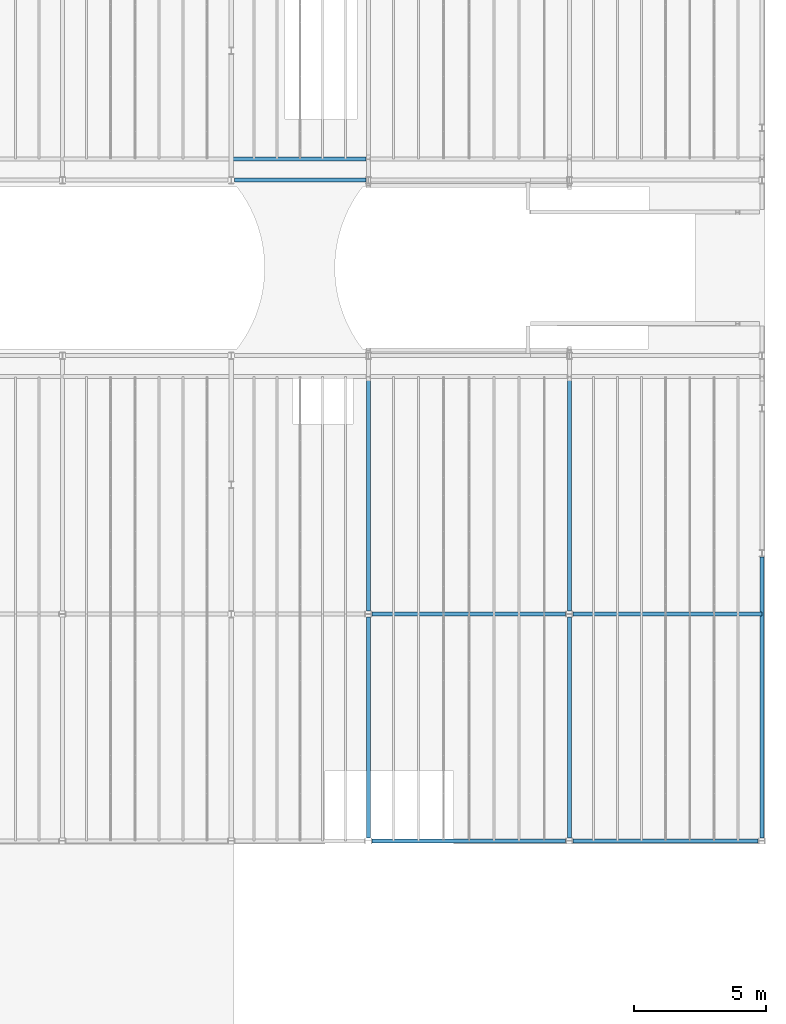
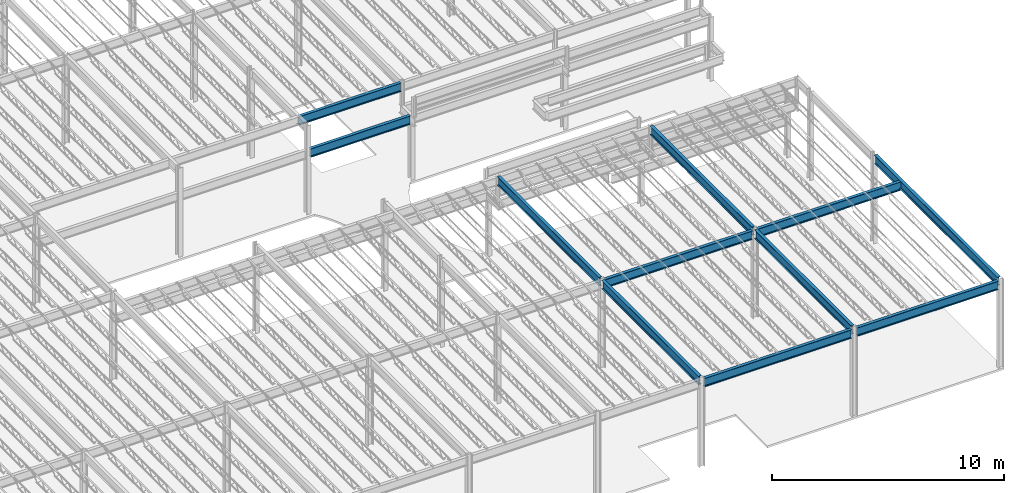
# One storey, part 12 of 119: 11 beams.
"""IFC2X3 building model written with IfcOpenShell, lengths in metres."""

from ifc_helpers import new_model, entity, si_unit, converted_unit, frame, frame_2d, origin, place, context, project, spatial, polyline, circle_curve, parameter, trimmed, segment, composite_curve, outline, extrude, material, element, save


model = new_model("IFC2X3")

# Units and contexts
model_context = context("Model", 3, precision=1e-09, world=origin())
plan_context = context("Plan", 3, precision=1e-09, world=origin())
ifc_project = project(units=[si_unit("LENGTHUNIT", "METRE"), si_unit("AREAUNIT", "SQUARE_METRE"), si_unit("VOLUMEUNIT", "CUBIC_METRE"), converted_unit("PLANEANGLEUNIT", "DEGREE", entity("IfcRatioMeasure", 0.01745329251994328), si_unit("PLANEANGLEUNIT", "RADIAN"), dimensions=[0, 0, 0, 0, 0, 0, 0]), si_unit("TIMEUNIT", "SECOND")], contexts=[model_context, plan_context])

# Site, building, storey
site_placement = place(None, origin())
site = spatial("IfcSite", under=ifc_project, at=site_placement, Name="Default", CompositionType="ELEMENT")
building_placement = place(site_placement, origin())
building = spatial("IfcBuilding", under=site, at=building_placement, CompositionType="ELEMENT")
storey_placement = place(building_placement, frame((0.0, 0.0, 4.570000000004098)))
storey = spatial("IfcBuildingStorey", under=building, at=storey_placement, Name="Second Floor", CompositionType="ELEMENT", Elevation=4.570000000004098)

# Beams
ifc_material = material(Name="Metal - Steel - 345 MPa")
beam_1_placement = place(storey_placement, frame((-7.277404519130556, 18.61, 4.616499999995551), z_axis=(0.0, 0.0, 1.0), x_axis=(0.0, -1.0, 0.0)))
element("IfcBeam", 1, at=beam_1_placement, inside=storey, material=ifc_material, Name="M_W-Wide Flange:W460X60:W460X60", ObjectType="M_W-Wide Flange:W460X60", context=model_context, shape_type="SweptSolid", body=[
    extrude(outline(composite_curve([segment(polyline([(-0.0765000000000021, -0.2142), (-0.0765000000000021, -0.2275000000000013)]), True, "CONTINUOUS"), segment(polyline([(-0.0765000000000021, -0.2275000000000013), (0.07649999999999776, -0.2275000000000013)]), True, "CONTINUOUS"), segment(polyline([(0.07649999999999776, -0.2275000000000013), (0.07649999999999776, -0.2142)]), True, "CONTINUOUS"), segment(polyline([(0.07649999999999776, -0.2142), (0.0216999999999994, -0.2142)]), True, "CONTINUOUS"), segment(trimmed(circle_curve(frame_2d((0.0216999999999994, -0.1965000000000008), x_axis=(1.0, 0.0)), 0.0177), [parameter(180.0)], [parameter(269.9999999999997)], True, "PARAMETER"), False, "CONTINUOUS"), segment(polyline([(0.00399999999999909, -0.1965000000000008), (0.00399999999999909, 0.1964999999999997)]), True, "CONTINUOUS"), segment(trimmed(circle_curve(frame_2d((0.0216999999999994, 0.1964999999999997), x_axis=(1.0, 0.0)), 0.0177), [parameter(90.00000000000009)], [parameter(179.9999999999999)], True, "PARAMETER"), False, "CONTINUOUS"), segment(polyline([(0.0216999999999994, 0.2142), (0.07649999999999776, 0.2142)]), True, "CONTINUOUS"), segment(polyline([(0.07649999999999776, 0.2142), (0.07649999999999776, 0.2274999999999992)]), True, "CONTINUOUS"), segment(polyline([(0.07649999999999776, 0.2274999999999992), (-0.0765000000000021, 0.2274999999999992)]), True, "CONTINUOUS"), segment(polyline([(-0.0765000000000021, 0.2274999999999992), (-0.0765000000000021, 0.2142)]), True, "CONTINUOUS"), segment(polyline([(-0.0765000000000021, 0.2142), (-0.02170000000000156, 0.2142)]), True, "CONTINUOUS"), segment(trimmed(circle_curve(frame_2d((-0.02170000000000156, 0.1964999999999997), x_axis=(1.0, 0.0)), 0.0177), [parameter(359.9999999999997)], [parameter(89.99999999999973)], True, "PARAMETER"), False, "CONTINUOUS"), segment(polyline([(-0.004000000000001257, 0.1964999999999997), (-0.004000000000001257, -0.1965000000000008)]), True, "CONTINUOUS"), segment(trimmed(circle_curve(frame_2d((-0.02170000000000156, -0.1965000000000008), x_axis=(1.0, 0.0)), 0.0177), [parameter(269.9999999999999)], [parameter(0.0)], True, "PARAMETER"), False, "CONTINUOUS"), segment(polyline([(-0.02170000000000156, -0.2142), (-0.0765000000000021, -0.2142)]), True, "CONTINUOUS")], self_intersect=False)), frame((0.0, 0.138604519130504, -0.2275000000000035), z_axis=(0.0, -1.0, 0.0), x_axis=(1.0, 0.0, 0.0)), (0.0, 0.0, -1.0), 7.138800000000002),
])
beam_2_placement = place(storey_placement, frame((-7.282486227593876, 18.61, 4.61649999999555), z_axis=(0.0, 0.0, 1.0), x_axis=(0.0, 1.0, 0.0)))
element("IfcBeam", 2, at=beam_2_placement, inside=storey, material=ifc_material, Name="M_W-Wide Flange:W460X60:W460X60", ObjectType="M_W-Wide Flange:W460X60", context=model_context, shape_type="SweptSolid", body=[
    extrude(outline(composite_curve([segment(polyline([(0.2142000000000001, -0.07650000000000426), (0.2275000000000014, -0.07650000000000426)]), True, "CONTINUOUS"), segment(polyline([(0.2275000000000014, -0.07650000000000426), (0.2275000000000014, 0.0764999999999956)]), True, "CONTINUOUS"), segment(polyline([(0.2275000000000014, 0.0764999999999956), (0.2142000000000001, 0.0764999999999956)]), True, "CONTINUOUS"), segment(polyline([(0.2142000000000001, 0.0764999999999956), (0.2142000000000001, 0.02169999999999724)]), True, "CONTINUOUS"), segment(trimmed(circle_curve(frame_2d((0.1965000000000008, 0.02169999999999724), x_axis=(1.0, 0.0)), 0.0177), [parameter(269.9999999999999)], [parameter(359.9999999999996)], True, "PARAMETER"), False, "CONTINUOUS"), segment(polyline([(0.1965000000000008, 0.003999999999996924), (-0.1964999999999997, 0.003999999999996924)]), True, "CONTINUOUS"), segment(trimmed(circle_curve(frame_2d((-0.1964999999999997, 0.02169999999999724), x_axis=(0.0, -1.0)), 0.0177), [parameter(269.9999999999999)], [parameter(359.9999999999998)], True, "PARAMETER"), False, "CONTINUOUS"), segment(polyline([(-0.2142, 0.02169999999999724), (-0.2142, 0.0764999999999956)]), True, "CONTINUOUS"), segment(polyline([(-0.2142, 0.0764999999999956), (-0.2274999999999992, 0.0764999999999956)]), True, "CONTINUOUS"), segment(polyline([(-0.2274999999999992, 0.0764999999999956), (-0.2274999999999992, -0.07650000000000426)]), True, "CONTINUOUS"), segment(polyline([(-0.2274999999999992, -0.07650000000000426), (-0.2142, -0.07650000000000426)]), True, "CONTINUOUS"), segment(polyline([(-0.2142, -0.07650000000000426), (-0.2142, -0.02170000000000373)]), True, "CONTINUOUS"), segment(trimmed(circle_curve(frame_2d((-0.1964999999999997, -0.02170000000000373), x_axis=(-1.0, 0.0)), 0.0177), [parameter(269.9999999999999)], [parameter(359.9999999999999)], True, "PARAMETER"), False, "CONTINUOUS"), segment(polyline([(-0.1964999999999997, -0.004000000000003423), (0.1965000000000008, -0.004000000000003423)]), True, "CONTINUOUS"), segment(trimmed(circle_curve(frame_2d((0.1965000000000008, -0.02170000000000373), x_axis=(0.0, 1.0)), 0.0177), [parameter(269.9999999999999)], [parameter(5.088887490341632e-14)], True, "PARAMETER"), False, "CONTINUOUS"), segment(polyline([(0.2142000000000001, -0.02170000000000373), (0.2142000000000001, -0.07650000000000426)]), True, "CONTINUOUS")], self_intersect=False)), frame((0.0, 7.4562887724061, -0.2275000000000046), z_axis=(0.0, -1.0, 0.0), x_axis=(0.0, 0.0, -1.0)), (0.0, 0.0, 1.0), 7.31757499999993),
])
beam_3_placement = place(storey_placement, frame((0.0, 20.90715544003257, 4.679999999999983), z_axis=(0.0, 0.0, 1.0), x_axis=(-1.0, 0.0, 0.0)))
element("IfcBeam", 3, at=beam_3_placement, inside=storey, material=ifc_material, Name="M_W-Wide Flange:W460X60:W460X60", ObjectType="M_W-Wide Flange:W460X60", context=model_context, shape_type="SweptSolid", body=[
    extrude(outline(composite_curve([segment(polyline([(0.2142000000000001, -0.07650000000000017), (0.2275000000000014, -0.07650000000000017)]), True, "CONTINUOUS"), segment(polyline([(0.2275000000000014, -0.07650000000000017), (0.2275000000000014, 0.07650000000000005)]), True, "CONTINUOUS"), segment(polyline([(0.2275000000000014, 0.07650000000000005), (0.2142000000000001, 0.07650000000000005)]), True, "CONTINUOUS"), segment(polyline([(0.2142000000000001, 0.07650000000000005), (0.2142000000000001, 0.02169999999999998)]), True, "CONTINUOUS"), segment(trimmed(circle_curve(frame_2d((0.1965000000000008, 0.02169999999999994), x_axis=(1.0, 0.0)), 0.0177), [parameter(269.9999999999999)], [parameter(359.9999999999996)], True, "PARAMETER"), False, "CONTINUOUS"), segment(polyline([(0.1965000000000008, 0.003999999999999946), (-0.1964999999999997, 0.003999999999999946)]), True, "CONTINUOUS"), segment(trimmed(circle_curve(frame_2d((-0.1964999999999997, 0.02169999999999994), x_axis=(0.0, -1.0)), 0.0177), [parameter(269.9999999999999)], [parameter(359.9999999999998)], True, "PARAMETER"), False, "CONTINUOUS"), segment(polyline([(-0.2142, 0.02169999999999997), (-0.2142, 0.07650000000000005)]), True, "CONTINUOUS"), segment(polyline([(-0.2142, 0.07650000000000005), (-0.2274999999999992, 0.07650000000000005)]), True, "CONTINUOUS"), segment(polyline([(-0.2274999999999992, 0.07650000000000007), (-0.2274999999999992, -0.0764999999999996)]), True, "CONTINUOUS"), segment(polyline([(-0.2274999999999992, -0.0764999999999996), (-0.2142, -0.0764999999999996)]), True, "CONTINUOUS"), segment(polyline([(-0.2142, -0.0764999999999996), (-0.2142, -0.02170000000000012)]), True, "CONTINUOUS"), segment(trimmed(circle_curve(frame_2d((-0.1964999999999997, -0.02170000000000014), x_axis=(-1.0, 0.0)), 0.0177), [parameter(269.9999999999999)], [parameter(359.9999999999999)], True, "PARAMETER"), False, "CONTINUOUS"), segment(polyline([(-0.1964999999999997, -0.004000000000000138), (0.1965000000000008, -0.004000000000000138)]), True, "CONTINUOUS"), segment(trimmed(circle_curve(frame_2d((0.1965000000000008, -0.02170000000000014), x_axis=(0.0, 1.0)), 0.0177), [parameter(269.9999999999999)], [parameter(5.088887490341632e-14)], True, "PARAMETER"), False, "CONTINUOUS"), segment(polyline([(0.2142000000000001, -0.02170000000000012), (0.2142000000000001, -0.07650000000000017)]), True, "CONTINUOUS")], self_intersect=False)), frame((0.0, 10.75245544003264, -0.2275000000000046), z_axis=(0.0, -1.0, 0.0), x_axis=(0.0, 0.0, -1.0)), (0.0, 0.0, 1.0), 10.61299399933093),
])
beam_4_placement = place(storey_placement, frame((-0.002595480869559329, 10.03999999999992, 4.61649999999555), z_axis=(0.0, 0.0, 1.0), x_axis=(0.0, 1.0, 0.0)))
element("IfcBeam", 4, at=beam_4_placement, inside=storey, material=ifc_material, Name="M_W-Wide Flange:W460X60:W460X60", ObjectType="M_W-Wide Flange:W460X60", context=model_context, shape_type="SweptSolid", body=[
    extrude(outline(composite_curve([segment(polyline([(0.2142000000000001, -0.07649999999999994), (0.2275000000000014, -0.07649999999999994)]), True, "CONTINUOUS"), segment(polyline([(0.2275000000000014, -0.07649999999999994), (0.2275000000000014, 0.07649999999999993)]), True, "CONTINUOUS"), segment(polyline([(0.2275000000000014, 0.07649999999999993), (0.2142000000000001, 0.07649999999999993)]), True, "CONTINUOUS"), segment(polyline([(0.2142000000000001, 0.07649999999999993), (0.2142000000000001, 0.02170000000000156)]), True, "CONTINUOUS"), segment(trimmed(circle_curve(frame_2d((0.1965000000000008, 0.02170000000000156), x_axis=(1.0, 0.0)), 0.0177), [parameter(269.9999999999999)], [parameter(359.9999999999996)], True, "PARAMETER"), False, "CONTINUOUS"), segment(polyline([(0.1965000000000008, 0.004000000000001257), (-0.1964999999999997, 0.004000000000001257)]), True, "CONTINUOUS"), segment(trimmed(circle_curve(frame_2d((-0.1964999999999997, 0.02170000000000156), x_axis=(0.0, -1.0)), 0.0177), [parameter(269.9999999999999)], [parameter(359.9999999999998)], True, "PARAMETER"), False, "CONTINUOUS"), segment(polyline([(-0.2142, 0.02170000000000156), (-0.2142, 0.07649999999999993)]), True, "CONTINUOUS"), segment(polyline([(-0.2142, 0.07649999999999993), (-0.2274999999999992, 0.07649999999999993)]), True, "CONTINUOUS"), segment(polyline([(-0.2274999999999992, 0.07649999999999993), (-0.2274999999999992, -0.07649999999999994)]), True, "CONTINUOUS"), segment(polyline([(-0.2274999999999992, -0.07649999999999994), (-0.2142, -0.07649999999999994)]), True, "CONTINUOUS"), segment(polyline([(-0.2142, -0.07649999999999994), (-0.2142, -0.0216999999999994)]), True, "CONTINUOUS"), segment(trimmed(circle_curve(frame_2d((-0.1964999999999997, -0.0216999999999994), x_axis=(-1.0, 0.0)), 0.0177), [parameter(269.9999999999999)], [parameter(359.9999999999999)], True, "PARAMETER"), False, "CONTINUOUS"), segment(polyline([(-0.1964999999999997, -0.00399999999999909), (0.1965000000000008, -0.00399999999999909)]), True, "CONTINUOUS"), segment(trimmed(circle_curve(frame_2d((0.1965000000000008, -0.0216999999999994), x_axis=(0.0, 1.0)), 0.0177), [parameter(269.9999999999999)], [parameter(5.088887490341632e-14)], True, "PARAMETER"), False, "CONTINUOUS"), segment(polyline([(0.2142000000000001, -0.0216999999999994), (0.2142000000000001, -0.07649999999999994)]), True, "CONTINUOUS")], self_intersect=False)), frame((0.0, 7.136204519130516, -0.2275000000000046), z_axis=(0.0, -1.0, 0.0), x_axis=(0.0, 0.0, -1.0)), (0.0, 0.0, 1.0), 6.997600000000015),
])
beam_5_placement = place(storey_placement, frame((-14.87997499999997, 18.6077951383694, 4.679999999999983), z_axis=(0.0, 0.0, 1.0), x_axis=(-1.0, 0.0, 0.0)))
element("IfcBeam", 5, at=beam_5_placement, inside=storey, material=ifc_material, Name="M_W-Wide Flange:W460X60:W460X60", ObjectType="M_W-Wide Flange:W460X60", context=model_context, shape_type="SweptSolid", body=[
    extrude(outline(composite_curve([segment(polyline([(0.2142000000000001, -0.07649999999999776), (0.2275000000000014, -0.07649999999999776)]), True, "CONTINUOUS"), segment(polyline([(0.2275000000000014, -0.07649999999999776), (0.2275000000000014, 0.07650000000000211)]), True, "CONTINUOUS"), segment(polyline([(0.2275000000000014, 0.07650000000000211), (0.2142000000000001, 0.07650000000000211)]), True, "CONTINUOUS"), segment(polyline([(0.2142000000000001, 0.07650000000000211), (0.2142000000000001, 0.02170000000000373)]), True, "CONTINUOUS"), segment(trimmed(circle_curve(frame_2d((0.1965000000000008, 0.02170000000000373), x_axis=(1.0, 0.0)), 0.0177), [parameter(269.9999999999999)], [parameter(359.9999999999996)], True, "PARAMETER"), False, "CONTINUOUS"), segment(polyline([(0.1965000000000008, 0.004000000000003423), (-0.1964999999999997, 0.004000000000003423)]), True, "CONTINUOUS"), segment(trimmed(circle_curve(frame_2d((-0.1964999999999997, 0.02170000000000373), x_axis=(0.0, -1.0)), 0.0177), [parameter(269.9999999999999)], [parameter(359.9999999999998)], True, "PARAMETER"), False, "CONTINUOUS"), segment(polyline([(-0.2142, 0.02170000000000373), (-0.2142, 0.07650000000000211)]), True, "CONTINUOUS"), segment(polyline([(-0.2142, 0.07650000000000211), (-0.2274999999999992, 0.07650000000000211)]), True, "CONTINUOUS"), segment(polyline([(-0.2274999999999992, 0.07650000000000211), (-0.2274999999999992, -0.07649999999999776)]), True, "CONTINUOUS"), segment(polyline([(-0.2274999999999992, -0.07649999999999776), (-0.2142, -0.07649999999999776)]), True, "CONTINUOUS"), segment(polyline([(-0.2142, -0.07649999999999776), (-0.2142, -0.02169999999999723)]), True, "CONTINUOUS"), segment(trimmed(circle_curve(frame_2d((-0.1964999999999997, -0.02169999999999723), x_axis=(-1.0, 0.0)), 0.0177), [parameter(269.9999999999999)], [parameter(359.9999999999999)], True, "PARAMETER"), False, "CONTINUOUS"), segment(polyline([(-0.1964999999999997, -0.003999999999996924), (0.1965000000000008, -0.003999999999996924)]), True, "CONTINUOUS"), segment(trimmed(circle_curve(frame_2d((0.1965000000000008, -0.02169999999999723), x_axis=(0.0, 1.0)), 0.0177), [parameter(269.9999999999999)], [parameter(5.088887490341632e-14)], True, "PARAMETER"), False, "CONTINUOUS"), segment(polyline([(0.2142000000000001, -0.02169999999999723), (0.2142000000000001, -0.07649999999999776)]), True, "CONTINUOUS")], self_intersect=False)), frame((0.0, 8.453095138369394, -0.2275000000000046), z_axis=(0.0, -1.0, 0.0), x_axis=(0.0, 0.0, -1.0)), (0.0, 0.0, 1.0), 8.340600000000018),
])
beam_6_placement = place(storey_placement, frame((-7.280000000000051, 18.61193408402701, 4.680000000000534)))
element("IfcBeam", 6, at=beam_6_placement, inside=storey, material=ifc_material, Name="M_W-Wide Flange:W460X60:W460X60", ObjectType="M_W-Wide Flange:W460X60", context=model_context, shape_type="SweptSolid", body=[
    extrude(outline(composite_curve([segment(polyline([(-0.07649999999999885, -0.2142), (-0.07649999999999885, -0.2275000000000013)]), True, "CONTINUOUS"), segment(polyline([(-0.07649999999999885, -0.2275000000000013), (0.07650000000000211, -0.2275000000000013)]), True, "CONTINUOUS"), segment(polyline([(0.07650000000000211, -0.2275000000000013), (0.07650000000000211, -0.2142)]), True, "CONTINUOUS"), segment(polyline([(0.07650000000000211, -0.2142), (0.02170000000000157, -0.2142)]), True, "CONTINUOUS"), segment(trimmed(circle_curve(frame_2d((0.02170000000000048, -0.1965000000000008), x_axis=(1.0, 0.0)), 0.0177), [parameter(180.0)], [parameter(269.9999999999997)], True, "PARAMETER"), False, "CONTINUOUS"), segment(polyline([(0.004000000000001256, -0.1965000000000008), (0.004000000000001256, 0.1964999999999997)]), True, "CONTINUOUS"), segment(trimmed(circle_curve(frame_2d((0.02170000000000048, 0.1964999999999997), x_axis=(1.0, 0.0)), 0.0177), [parameter(90.00000000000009)], [parameter(179.9999999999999)], True, "PARAMETER"), False, "CONTINUOUS"), segment(polyline([(0.02170000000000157, 0.2142), (0.07650000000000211, 0.2142)]), True, "CONTINUOUS"), segment(polyline([(0.07650000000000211, 0.2142), (0.07650000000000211, 0.2274999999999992)]), True, "CONTINUOUS"), segment(polyline([(0.07650000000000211, 0.2274999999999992), (-0.07649999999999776, 0.2274999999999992)]), True, "CONTINUOUS"), segment(polyline([(-0.07649999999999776, 0.2274999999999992), (-0.07649999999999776, 0.2142)]), True, "CONTINUOUS"), segment(polyline([(-0.07649999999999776, 0.2142), (-0.02169999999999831, 0.2142)]), True, "CONTINUOUS"), segment(trimmed(circle_curve(frame_2d((-0.0216999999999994, 0.1964999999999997), x_axis=(1.0, 0.0)), 0.0177), [parameter(359.9999999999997)], [parameter(89.99999999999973)], True, "PARAMETER"), False, "CONTINUOUS"), segment(polyline([(-0.003999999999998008, 0.1964999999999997), (-0.003999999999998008, -0.1965000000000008)]), True, "CONTINUOUS"), segment(trimmed(circle_curve(frame_2d((-0.0216999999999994, -0.1965000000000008), x_axis=(1.0, 0.0)), 0.0177), [parameter(269.9999999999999)], [parameter(0.0)], True, "PARAMETER"), False, "CONTINUOUS"), segment(polyline([(-0.02169999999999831, -0.2142), (-0.07649999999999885, -0.2142)]), True, "CONTINUOUS")], self_intersect=False)), frame((0.0, 0.1127659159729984, -0.2275000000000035), z_axis=(0.0, -1.0, 0.0), x_axis=(1.0, 0.0, 0.0)), (0.0, 0.0, -1.0), 8.771600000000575),
])
beam_7_placement = place(storey_placement, frame((-7.280000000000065, 10.04220486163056, 4.679999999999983)))
element("IfcBeam", 7, at=beam_7_placement, inside=storey, material=ifc_material, Name="M_W-Wide Flange:W460X60:W460X60", ObjectType="M_W-Wide Flange:W460X60", context=model_context, shape_type="SweptSolid", body=[
    extrude(outline(composite_curve([segment(polyline([(-0.07649999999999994, -0.214199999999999), (-0.07649999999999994, -0.2275000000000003)]), True, "CONTINUOUS"), segment(polyline([(-0.07649999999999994, -0.2275000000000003), (0.07650000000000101, -0.2275000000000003)]), True, "CONTINUOUS"), segment(polyline([(0.07650000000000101, -0.2275000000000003), (0.07650000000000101, -0.214199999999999)]), True, "CONTINUOUS"), segment(polyline([(0.07650000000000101, -0.214199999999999), (0.02170000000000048, -0.214199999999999)]), True, "CONTINUOUS"), segment(trimmed(circle_curve(frame_2d((0.0216999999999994, -0.1964999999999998), x_axis=(0.0, -1.0)), 0.0177), [parameter(269.9999999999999)], [parameter(359.9999999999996)], True, "PARAMETER"), False, "CONTINUOUS"), segment(polyline([(0.004000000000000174, -0.1964999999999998), (0.004000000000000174, 0.1965000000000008)]), True, "CONTINUOUS"), segment(trimmed(circle_curve(frame_2d((0.0216999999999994, 0.1965000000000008), x_axis=(-1.0, 0.0)), 0.0177), [parameter(269.9999999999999)], [parameter(359.9999999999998)], True, "PARAMETER"), False, "CONTINUOUS"), segment(polyline([(0.02170000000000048, 0.2142000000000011), (0.07650000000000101, 0.2142000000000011)]), True, "CONTINUOUS"), segment(polyline([(0.07650000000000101, 0.2142000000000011), (0.07650000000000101, 0.2275000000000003)]), True, "CONTINUOUS"), segment(polyline([(0.07650000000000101, 0.2275000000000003), (-0.07649999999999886, 0.2275000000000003)]), True, "CONTINUOUS"), segment(polyline([(-0.07649999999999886, 0.2275000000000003), (-0.07649999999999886, 0.2142000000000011)]), True, "CONTINUOUS"), segment(polyline([(-0.07649999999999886, 0.2142000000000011), (-0.0216999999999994, 0.2142000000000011)]), True, "CONTINUOUS"), segment(trimmed(circle_curve(frame_2d((-0.02170000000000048, 0.1965000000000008), x_axis=(0.0, 1.0)), 0.0177), [parameter(269.9999999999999)], [parameter(359.9999999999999)], True, "PARAMETER"), False, "CONTINUOUS"), segment(polyline([(-0.00399999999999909, 0.1965000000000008), (-0.00399999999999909, -0.1964999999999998)]), True, "CONTINUOUS"), segment(trimmed(circle_curve(frame_2d((-0.02170000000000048, -0.1964999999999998), x_axis=(1.0, 0.0)), 0.0177), [parameter(269.9999999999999)], [parameter(5.088887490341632e-14)], True, "PARAMETER"), False, "CONTINUOUS"), segment(polyline([(-0.0216999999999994, -0.214199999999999), (-0.07649999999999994, -0.214199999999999)]), True, "CONTINUOUS")], self_intersect=False)), frame((0.0, 0.1124951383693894, -0.2275000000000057), z_axis=(0.0, -1.0, 0.0), x_axis=(1.0, 0.0, 0.0)), (0.0, 0.0, -1.0), 8.340600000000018),
])
beam_8_placement = place(storey_placement, frame((-14.87997499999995, 28.37806591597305, 4.680000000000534), z_axis=(0.0, 0.0, 1.0), x_axis=(-1.0, 0.0, 0.0)))
element("IfcBeam", 8, at=beam_8_placement, inside=storey, material=ifc_material, Name="M_W-Wide Flange:W460X60:W460X60", ObjectType="M_W-Wide Flange:W460X60", context=model_context, shape_type="SweptSolid", body=[
    extrude(outline(composite_curve([segment(polyline([(0.2142000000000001, -0.07649999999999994), (0.2275000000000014, -0.07649999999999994)]), True, "CONTINUOUS"), segment(polyline([(0.2275000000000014, -0.07649999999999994), (0.2275000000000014, 0.07649999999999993)]), True, "CONTINUOUS"), segment(polyline([(0.2275000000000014, 0.07649999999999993), (0.2142000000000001, 0.07649999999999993)]), True, "CONTINUOUS"), segment(polyline([(0.2142000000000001, 0.07649999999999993), (0.2142000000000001, 0.02170000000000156)]), True, "CONTINUOUS"), segment(trimmed(circle_curve(frame_2d((0.1965000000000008, 0.02170000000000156), x_axis=(0.0, 1.0)), 0.0177), [parameter(180.0)], [parameter(269.9999999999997)], True, "PARAMETER"), False, "CONTINUOUS"), segment(polyline([(0.1965000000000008, 0.004000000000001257), (-0.1964999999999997, 0.004000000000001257)]), True, "CONTINUOUS"), segment(trimmed(circle_curve(frame_2d((-0.1964999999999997, 0.02170000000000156), x_axis=(0.0, 1.0)), 0.0177), [parameter(90.00000000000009)], [parameter(179.9999999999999)], True, "PARAMETER"), False, "CONTINUOUS"), segment(polyline([(-0.2142, 0.02170000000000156), (-0.2142, 0.07649999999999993)]), True, "CONTINUOUS"), segment(polyline([(-0.2142, 0.07649999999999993), (-0.2274999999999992, 0.07649999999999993)]), True, "CONTINUOUS"), segment(polyline([(-0.2274999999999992, 0.07649999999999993), (-0.2274999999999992, -0.07649999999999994)]), True, "CONTINUOUS"), segment(polyline([(-0.2274999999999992, -0.07649999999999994), (-0.2142, -0.07649999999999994)]), True, "CONTINUOUS"), segment(polyline([(-0.2142, -0.07649999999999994), (-0.2142, -0.0216999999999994)]), True, "CONTINUOUS"), segment(trimmed(circle_curve(frame_2d((-0.1964999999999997, -0.0216999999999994), x_axis=(0.0, 1.0)), 0.0177), [parameter(359.9999999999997)], [parameter(89.99999999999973)], True, "PARAMETER"), False, "CONTINUOUS"), segment(polyline([(-0.1964999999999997, -0.00399999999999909), (0.1965000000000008, -0.00399999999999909)]), True, "CONTINUOUS"), segment(trimmed(circle_curve(frame_2d((0.1965000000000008, -0.0216999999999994), x_axis=(0.0, 1.0)), 0.0177), [parameter(269.9999999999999)], [parameter(0.0)], True, "PARAMETER"), False, "CONTINUOUS"), segment(polyline([(0.2142000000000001, -0.0216999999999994), (0.2142000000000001, -0.07649999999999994)]), True, "CONTINUOUS")], self_intersect=False)), frame((0.0, 9.653365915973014, -0.2275000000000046), z_axis=(0.0, -1.0, 0.0), x_axis=(0.0, 0.0, -1.0)), (0.0, 0.0, 1.0), 8.771600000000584),
])
beam_9_placement = place(storey_placement, frame((-14.87748877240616, 10.03999999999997, 4.61649999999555), z_axis=(0.0, 0.0, 1.0), x_axis=(0.0, -1.0, 0.0)))
element("IfcBeam", 9, at=beam_9_placement, inside=storey, material=ifc_material, Name="M_W-Wide Flange:W460X60:W460X60", ObjectType="M_W-Wide Flange:W460X60", context=model_context, shape_type="SweptSolid", body=[
    extrude(outline(composite_curve([segment(polyline([(-0.07649999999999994, -0.2142000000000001), (-0.07649999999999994, -0.2275000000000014)]), True, "CONTINUOUS"), segment(polyline([(-0.07649999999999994, -0.2275000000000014), (0.07649999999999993, -0.2275000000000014)]), True, "CONTINUOUS"), segment(polyline([(0.07649999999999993, -0.2275000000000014), (0.07649999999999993, -0.2142000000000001)]), True, "CONTINUOUS"), segment(polyline([(0.07649999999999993, -0.2142000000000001), (0.02170000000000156, -0.2142000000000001)]), True, "CONTINUOUS"), segment(trimmed(circle_curve(frame_2d((0.0216999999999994, -0.1965000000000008), x_axis=(0.0, -1.0)), 0.0177), [parameter(269.9999999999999)], [parameter(359.9999999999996)], True, "PARAMETER"), False, "CONTINUOUS"), segment(polyline([(0.004000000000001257, -0.1965000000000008), (0.004000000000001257, 0.1964999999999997)]), True, "CONTINUOUS"), segment(trimmed(circle_curve(frame_2d((0.0216999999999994, 0.1964999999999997), x_axis=(-1.0, 0.0)), 0.0177), [parameter(269.9999999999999)], [parameter(359.9999999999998)], True, "PARAMETER"), False, "CONTINUOUS"), segment(polyline([(0.02170000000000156, 0.2142), (0.07649999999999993, 0.2142)]), True, "CONTINUOUS"), segment(polyline([(0.07649999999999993, 0.2142), (0.07649999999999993, 0.2274999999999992)]), True, "CONTINUOUS"), segment(polyline([(0.07649999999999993, 0.2274999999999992), (-0.07649999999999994, 0.2274999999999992)]), True, "CONTINUOUS"), segment(polyline([(-0.07649999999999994, 0.2274999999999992), (-0.07649999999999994, 0.2142)]), True, "CONTINUOUS"), segment(polyline([(-0.07649999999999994, 0.2142), (-0.0216999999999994, 0.2142)]), True, "CONTINUOUS"), segment(trimmed(circle_curve(frame_2d((-0.02170000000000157, 0.1964999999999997), x_axis=(0.0, 1.0)), 0.0177), [parameter(269.9999999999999)], [parameter(359.9999999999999)], True, "PARAMETER"), False, "CONTINUOUS"), segment(polyline([(-0.00399999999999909, 0.1964999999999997), (-0.00399999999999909, -0.1965000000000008)]), True, "CONTINUOUS"), segment(trimmed(circle_curve(frame_2d((-0.02170000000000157, -0.1965000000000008), x_axis=(1.0, 0.0)), 0.0177), [parameter(269.9999999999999)], [parameter(5.088887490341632e-14)], True, "PARAMETER"), False, "CONTINUOUS"), segment(polyline([(-0.0216999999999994, -0.2142000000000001), (-0.07649999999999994, -0.2142000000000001)]), True, "CONTINUOUS")], self_intersect=False)), frame((0.0, 0.1387137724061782, -0.2275000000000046), z_axis=(0.0, -1.0, 0.0), x_axis=(1.0, 0.0, 0.0)), (0.0, 0.0, -1.0), 7.31757499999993),
])
beam_10_placement = place(storey_placement, frame((-13.80426138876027, 35.00999999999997, 3.366499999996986), z_axis=(0.0, 0.0, 1.0), x_axis=(0.0, 1.0, 0.0)))
element("IfcBeam", 10, at=beam_10_placement, inside=storey, material=ifc_material, Name="M_W-Wide Flange:W460X60:W460X60", ObjectType="M_W-Wide Flange:W460X60", context=model_context, shape_type="SweptSolid", body=[
    extrude(outline(composite_curve([segment(polyline([(0.214199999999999, -0.0764999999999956), (0.2275000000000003, -0.0764999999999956)]), True, "CONTINUOUS"), segment(polyline([(0.2275000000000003, -0.0764999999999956), (0.2275000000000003, 0.07650000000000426)]), True, "CONTINUOUS"), segment(polyline([(0.2275000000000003, 0.07650000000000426), (0.214199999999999, 0.07650000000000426)]), True, "CONTINUOUS"), segment(polyline([(0.214199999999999, 0.07650000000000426), (0.214199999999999, 0.02170000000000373)]), True, "CONTINUOUS"), segment(trimmed(circle_curve(frame_2d((0.1964999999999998, 0.02170000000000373), x_axis=(0.0, 1.0)), 0.0177), [parameter(180.0)], [parameter(269.9999999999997)], True, "PARAMETER"), False, "CONTINUOUS"), segment(polyline([(0.1964999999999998, 0.004000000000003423), (-0.1965000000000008, 0.004000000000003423)]), True, "CONTINUOUS"), segment(trimmed(circle_curve(frame_2d((-0.1965000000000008, 0.02170000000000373), x_axis=(0.0, 1.0)), 0.0177), [parameter(90.00000000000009)], [parameter(179.9999999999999)], True, "PARAMETER"), False, "CONTINUOUS"), segment(polyline([(-0.2142000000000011, 0.02170000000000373), (-0.2142000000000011, 0.07650000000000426)]), True, "CONTINUOUS"), segment(polyline([(-0.2142000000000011, 0.07650000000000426), (-0.2275000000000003, 0.07650000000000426)]), True, "CONTINUOUS"), segment(polyline([(-0.2275000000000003, 0.07650000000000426), (-0.2275000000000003, -0.0764999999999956)]), True, "CONTINUOUS"), segment(polyline([(-0.2275000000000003, -0.0764999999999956), (-0.2142000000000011, -0.0764999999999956)]), True, "CONTINUOUS"), segment(polyline([(-0.2142000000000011, -0.0764999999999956), (-0.2142000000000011, -0.02169999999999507)]), True, "CONTINUOUS"), segment(trimmed(circle_curve(frame_2d((-0.1965000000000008, -0.02169999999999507), x_axis=(0.0, 1.0)), 0.0177), [parameter(359.9999999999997)], [parameter(89.99999999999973)], True, "PARAMETER"), False, "CONTINUOUS"), segment(polyline([(-0.1965000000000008, -0.00399999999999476), (0.1964999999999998, -0.00399999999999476)]), True, "CONTINUOUS"), segment(trimmed(circle_curve(frame_2d((0.1964999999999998, -0.02169999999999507), x_axis=(0.0, 1.0)), 0.0177), [parameter(269.9999999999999)], [parameter(0.0)], True, "PARAMETER"), False, "CONTINUOUS"), segment(polyline([(0.214199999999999, -0.02169999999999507), (0.214199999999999, -0.0764999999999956)]), True, "CONTINUOUS")], self_intersect=False)), frame((0.0, 6.141038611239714, -0.2275000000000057), z_axis=(0.0, -1.0, 0.0), x_axis=(0.0, 0.0, -1.0)), (0.0, 0.0, 1.0), 4.976134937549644),
])
beam_11_placement = place(storey_placement, frame((-7.277609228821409, 35.80499999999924, 4.616499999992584), z_axis=(0.0, 0.0, 1.0), x_axis=(0.0, -1.0, 0.0)))
element("IfcBeam", 11, at=beam_11_placement, inside=storey, material=ifc_material, Name="M_W-Wide Flange:W460X60:W460X60", ObjectType="M_W-Wide Flange:W460X60", context=model_context, shape_type="SweptSolid", body=[
    extrude(outline(composite_curve([segment(polyline([(-0.07649999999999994, -0.2142000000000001), (-0.07649999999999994, -0.2275000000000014)]), True, "CONTINUOUS"), segment(polyline([(-0.07649999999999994, -0.2275000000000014), (0.07649999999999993, -0.2275000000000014)]), True, "CONTINUOUS"), segment(polyline([(0.07649999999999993, -0.2275000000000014), (0.07649999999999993, -0.2142000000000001)]), True, "CONTINUOUS"), segment(polyline([(0.07649999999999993, -0.2142000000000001), (0.0216999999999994, -0.2142000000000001)]), True, "CONTINUOUS"), segment(trimmed(circle_curve(frame_2d((0.0216999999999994, -0.1965000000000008), x_axis=(1.0, 0.0)), 0.0177), [parameter(180.0)], [parameter(269.9999999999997)], True, "PARAMETER"), False, "CONTINUOUS"), segment(polyline([(0.003999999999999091, -0.1965000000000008), (0.003999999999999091, 0.1964999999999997)]), True, "CONTINUOUS"), segment(trimmed(circle_curve(frame_2d((0.0216999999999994, 0.1964999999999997), x_axis=(1.0, 0.0)), 0.0177), [parameter(90.00000000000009)], [parameter(179.9999999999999)], True, "PARAMETER"), False, "CONTINUOUS"), segment(polyline([(0.0216999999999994, 0.2142), (0.07649999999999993, 0.2142)]), True, "CONTINUOUS"), segment(polyline([(0.07649999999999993, 0.2142), (0.07649999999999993, 0.2274999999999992)]), True, "CONTINUOUS"), segment(polyline([(0.07649999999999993, 0.2274999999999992), (-0.07649999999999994, 0.2274999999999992)]), True, "CONTINUOUS"), segment(polyline([(-0.07649999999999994, 0.2274999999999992), (-0.07649999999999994, 0.2142)]), True, "CONTINUOUS"), segment(polyline([(-0.07649999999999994, 0.2142), (-0.0216999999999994, 0.2142)]), True, "CONTINUOUS"), segment(trimmed(circle_curve(frame_2d((-0.0216999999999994, 0.1964999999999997), x_axis=(1.0, 0.0)), 0.0177), [parameter(359.9999999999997)], [parameter(89.99999999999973)], True, "PARAMETER"), False, "CONTINUOUS"), segment(polyline([(-0.00399999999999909, 0.1964999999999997), (-0.00399999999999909, -0.1965000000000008)]), True, "CONTINUOUS"), segment(trimmed(circle_curve(frame_2d((-0.0216999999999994, -0.1965000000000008), x_axis=(1.0, 0.0)), 0.0177), [parameter(269.9999999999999)], [parameter(0.0)], True, "PARAMETER"), False, "CONTINUOUS"), segment(polyline([(-0.0216999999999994, -0.2142000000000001), (-0.07649999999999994, -0.2142000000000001)]), True, "CONTINUOUS")], self_intersect=False)), frame((0.0, -12.76969077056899, -0.2275000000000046), z_axis=(0.0, -1.0, 0.0), x_axis=(1.0, 0.0, 0.0)), (0.0, 0.0, -1.0), 5.078624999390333),
])

save(model, "model.ifc")
